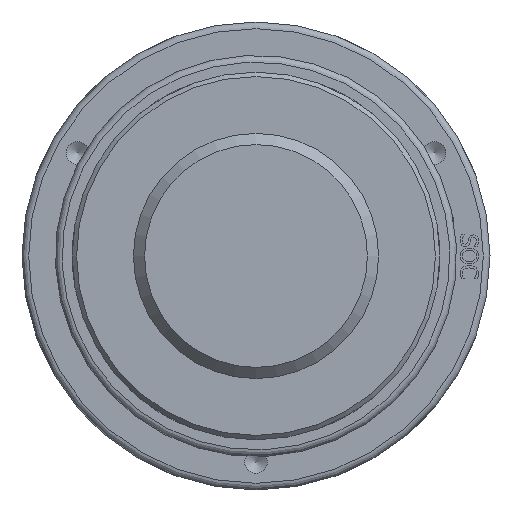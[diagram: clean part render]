
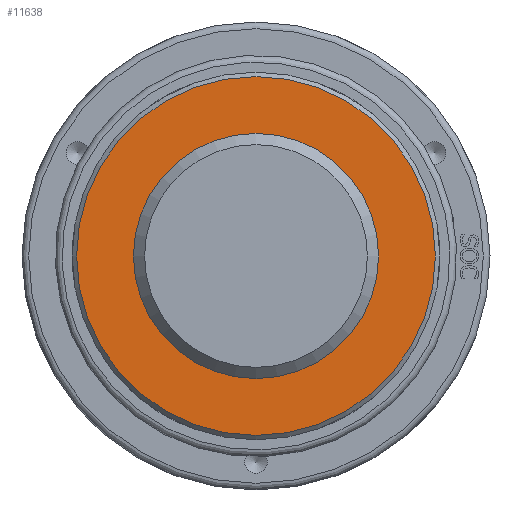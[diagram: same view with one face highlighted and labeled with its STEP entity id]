
A CAD part, front view. The second image highlights one B-rep face of the part: STEP entity #11638.
In plain terms, the highlighted planar face has unit normal (0, -1, 0) as drawn and (0, 1, 0) by its records, which use the part's own axes.
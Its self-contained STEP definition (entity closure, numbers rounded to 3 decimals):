
#90=CIRCLE('',#12253,80.5);
#92=CIRCLE('',#12257,51.753);
#169=FACE_BOUND('',#2237,.T.);
#1530=FACE_OUTER_BOUND('',#2236,.T.);
#2236=EDGE_LOOP('',(#9232));
#2237=EDGE_LOOP('',(#9233));
#5232=VERTEX_POINT('',#17800);
#5246=VERTEX_POINT('',#18040);
#6673=EDGE_CURVE('',#5232,#5232,#90,.T.);
#6687=EDGE_CURVE('',#5246,#5246,#92,.T.);
#9232=ORIENTED_EDGE('',*,*,#6673,.F.);
#9233=ORIENTED_EDGE('',*,*,#6687,.T.);
#11193=PLANE('',#12256);
#11638=ADVANCED_FACE('',(#1530,#169),#11193,.T.);
#12253=AXIS2_PLACEMENT_3D('',#17801,#13346,#13347);
#12256=AXIS2_PLACEMENT_3D('',#18039,#13352,#13353);
#12257=AXIS2_PLACEMENT_3D('',#18041,#13354,#13355);
#13346=DIRECTION('center_axis',(0.,-1.,0.));
#13347=DIRECTION('ref_axis',(1.,0.,0.));
#13352=DIRECTION('center_axis',(0.,1.,0.));
#13353=DIRECTION('ref_axis',(0.,0.,1.));
#13354=DIRECTION('center_axis',(0.,-1.,0.));
#13355=DIRECTION('ref_axis',(1.,0.,0.));
#17800=CARTESIAN_POINT('',(-80.5,55.,0.));
#17801=CARTESIAN_POINT('Origin',(0.,55.,0.));
#18039=CARTESIAN_POINT('Origin',(0.,55.,0.));
#18040=CARTESIAN_POINT('',(-51.753,55.,0.));
#18041=CARTESIAN_POINT('Origin',(0.,55.,0.));
